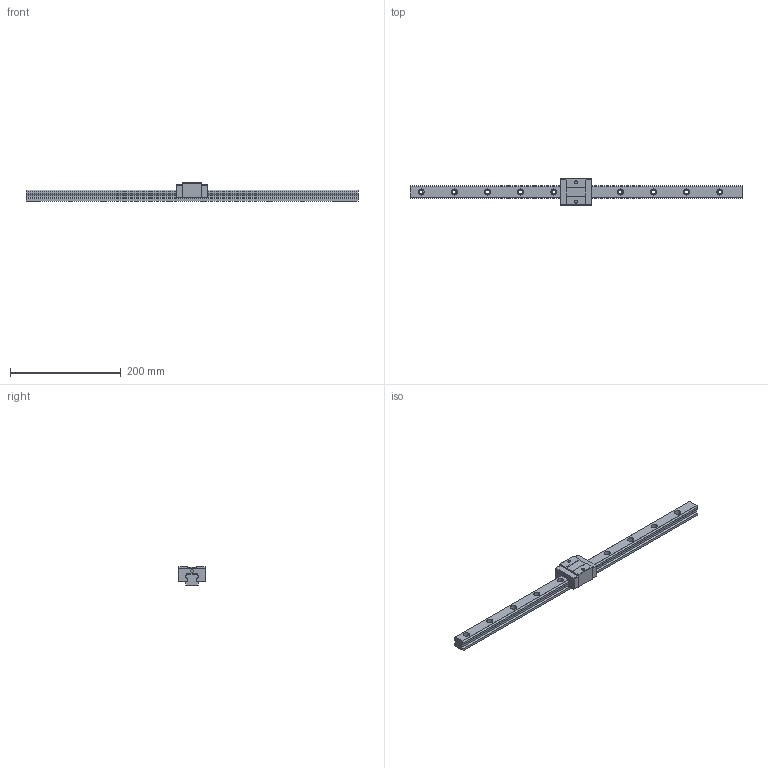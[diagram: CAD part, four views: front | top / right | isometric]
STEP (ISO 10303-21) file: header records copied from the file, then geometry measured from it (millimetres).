
FILE_DESCRIPTION(/* description */ (''),/* implementation_level */ '2;1');
FILE_NAME(/* name */ 'TRS25VS-XN.stp',/* time_stamp */ '2017-10-25T17:09:15+08:00',/* author */ (''),/* organization */ (''),/* preprocessor_version */ 'ST-DEVELOPER v11',/* originating_system */ 'SIEMENS UGS NX 6.0',/* authorisation */ '');
FILE_SCHEMA (('AUTOMOTIVE_DESIGN { 1 0 10303 214 1 1 1 1 }'));
Length unit declared in the file: millimetre
Products named in the file (1): TRS25VS-XN
Bounding box: 600 x 48 x 33 mm (x, y, z)
Volume: 288125 mm3; surface area: 71326.6 mm2
Topology: 2 solids, 2 shells, 122 faces, 306 edges, 202 vertices
Faces by surface type: plane 78, cylinder 44
Full cylindrical faces by diameter (mm): 5 x4, 7 x10, 11 x10
Entity records: 3986 total; most frequent: DIRECTION 606, CARTESIAN_POINT 587, ORIENTED_EDGE 544, EDGE_CURVE 272, AXIS2_PLACEMENT_3D 211, VERTEX_POINT 192, LINE 184, VECTOR 184
